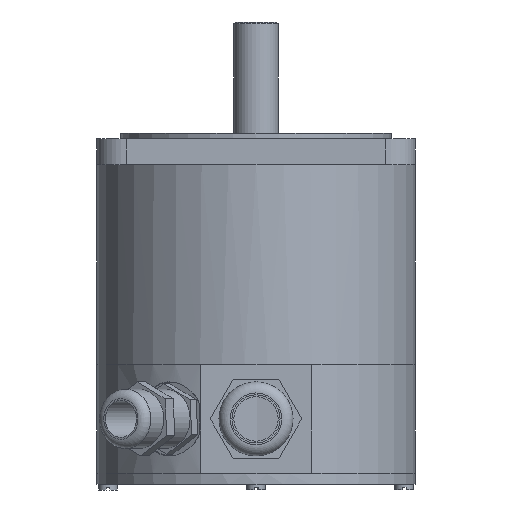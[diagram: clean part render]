
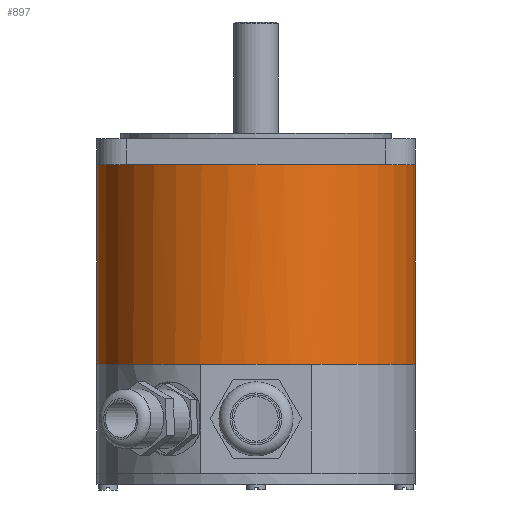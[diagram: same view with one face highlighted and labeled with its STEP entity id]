
A CAD part, front view. The second image highlights one B-rep face of the part: STEP entity #897.
In plain terms, the highlighted cylindrical face has radius 43 mm (diameter 86 mm), a full revolution.
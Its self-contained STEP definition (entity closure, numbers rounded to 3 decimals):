
#187=CARTESIAN_POINT('',(-69.773,-46.811,45.005));
#188=VERTEX_POINT('',#187);
#189=CARTESIAN_POINT('',(-26.773,-89.811,45.005));
#190=VERTEX_POINT('',#189);
#191=CARTESIAN_POINT('',(-69.773,-89.811,45.005));
#192=DIRECTION('',(0.0,0.0,-1.0));
#193=DIRECTION('',(-1.0,0.0,0.0));
#194=AXIS2_PLACEMENT_3D('',#191,#192,#193);
#195=CIRCLE('',#194,43.0);
#196=EDGE_CURVE('',#188,#190,#195,.T.);
#240=CARTESIAN_POINT('',(-112.773,-89.811,45.005));
#241=VERTEX_POINT('',#240);
#242=CARTESIAN_POINT('',(-69.773,-89.811,45.005));
#243=DIRECTION('',(0.0,0.0,-1.0));
#244=DIRECTION('',(-1.0,0.0,0.0));
#245=AXIS2_PLACEMENT_3D('',#242,#243,#244);
#246=CIRCLE('',#245,43.0);
#247=EDGE_CURVE('',#241,#188,#246,.T.);
#291=CARTESIAN_POINT('',(-69.773,-132.811,45.005));
#292=VERTEX_POINT('',#291);
#293=CARTESIAN_POINT('',(-69.773,-89.811,45.005));
#294=DIRECTION('',(0.0,0.0,-1.0));
#295=DIRECTION('',(-1.0,0.0,0.0));
#296=AXIS2_PLACEMENT_3D('',#293,#294,#295);
#297=CIRCLE('',#296,43.0);
#298=EDGE_CURVE('',#292,#241,#297,.T.);
#342=CARTESIAN_POINT('',(-69.773,-89.811,45.005));
#343=DIRECTION('',(0.0,0.0,-1.0));
#344=DIRECTION('',(-1.0,0.0,0.0));
#345=AXIS2_PLACEMENT_3D('',#342,#343,#344);
#346=CIRCLE('',#345,43.0);
#347=EDGE_CURVE('',#190,#292,#346,.T.);
#857=CARTESIAN_POINT('',(-69.773,-89.811,-8.995));
#858=DIRECTION('',(0.0,0.0,1.0));
#859=DIRECTION('',(-1.0,0.0,0.0));
#860=AXIS2_PLACEMENT_3D('',#857,#858,#859);
#861=CYLINDRICAL_SURFACE('',#860,43.0);
#862=ORIENTED_EDGE('',*,*,#347,.T.);
#863=ORIENTED_EDGE('',*,*,#298,.T.);
#864=ORIENTED_EDGE('',*,*,#247,.T.);
#865=ORIENTED_EDGE('',*,*,#196,.T.);
#866=EDGE_LOOP('',(#862,#863,#864,#865));
#867=FACE_OUTER_BOUND('',#866,.T.);
#868=CARTESIAN_POINT('',(-26.773,-89.811,-8.995));
#869=VERTEX_POINT('',#868);
#870=CARTESIAN_POINT('',(-54.74,-130.098,-8.995));
#871=VERTEX_POINT('',#870);
#872=CARTESIAN_POINT('',(-69.773,-89.811,-8.995));
#873=DIRECTION('',(0.,0.,-1.0));
#874=DIRECTION('',(-0.35,0.937,0.));
#875=AXIS2_PLACEMENT_3D('',#872,#873,#874);
#876=CIRCLE('',#875,43.);
#877=EDGE_CURVE('',#869,#871,#876,.T.);
#878=ORIENTED_EDGE('',*,*,#877,.F.);
#879=CARTESIAN_POINT('',(-84.806,-130.098,-8.995));
#880=VERTEX_POINT('',#879);
#881=CARTESIAN_POINT('',(-69.773,-89.811,-8.995));
#882=DIRECTION('',(0.,0.,-1.0));
#883=DIRECTION('',(-0.35,0.937,0.));
#884=AXIS2_PLACEMENT_3D('',#881,#882,#883);
#885=CIRCLE('',#884,43.);
#886=EDGE_CURVE('',#880,#869,#885,.T.);
#887=ORIENTED_EDGE('',*,*,#886,.F.);
#888=CARTESIAN_POINT('',(-69.773,-89.811,-8.995));
#889=DIRECTION('',(0.0,0.0,-1.0));
#890=DIRECTION('',(-1.0,0.0,0.0));
#891=AXIS2_PLACEMENT_3D('',#888,#889,#890);
#892=CIRCLE('',#891,43.0);
#893=EDGE_CURVE('',#871,#880,#892,.T.);
#894=ORIENTED_EDGE('',*,*,#893,.F.);
#895=EDGE_LOOP('',(#878,#887,#894));
#896=FACE_BOUND('',#895,.T.);
#897=ADVANCED_FACE('',(#867,#896),#861,.T.);
